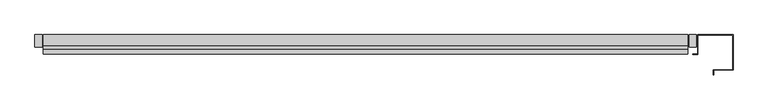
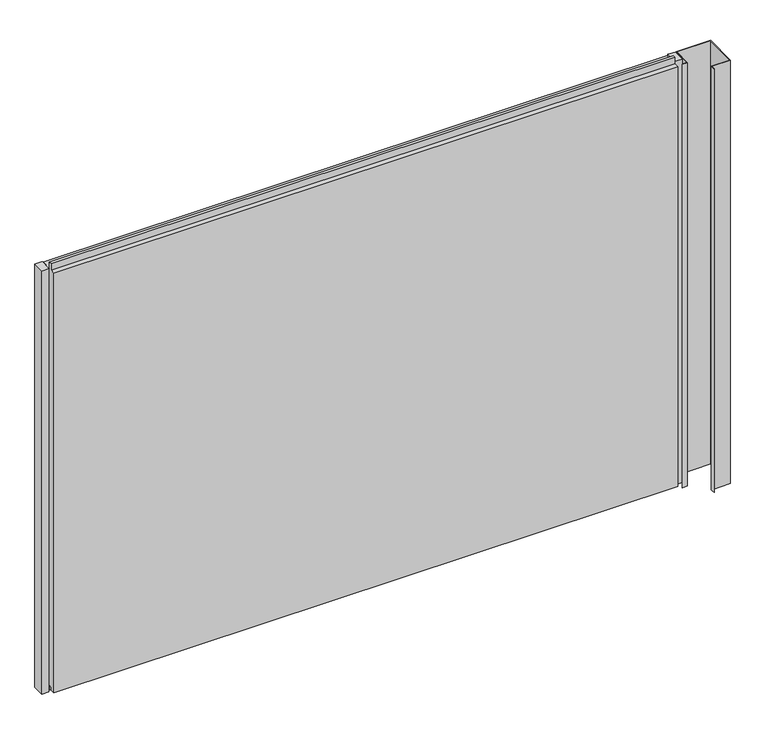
"""IFC4 building model written with IfcOpenShell, lengths in millimetres: plate geometry, Trimo_Qbiss Screen_Normal Panel-HORIZONTAL : HR - FB-F."""

from ifc_helpers import new_model, si_unit, frame, origin, place, context, project, spatial, polyline, outline, extrude, source, transform, mapped, element, save


def plate_e7e33969(model_context):
    return source(origin(), model_context, "Body", "SweptSolid", [
        extrude(outline(polyline([(-840.5, 67.8978162), (-859.5, 67.8978162), (-859.5, 100.0), (-840.5, 100.0), (-840.5, 67.8978162)])), frame((0.0, 0.0, -1.0), z_axis=(0.0, 0.0, 1.0), x_axis=(1.0, 0.0, 0.0)), (0.0, 0.0, 1.0), 1200.0),
        extrude(outline(polyline([(855.0, 67.8978162), (836.0, 67.8978162), (836.0, 100.0), (855.0, 100.0), (855.0, 67.8978162)])), frame((0.0, 0.0, -1.0), z_axis=(0.0, 0.0, 1.0), x_axis=(1.0, 0.0, 0.0)), (0.0, 0.0, 1.0), 1200.0),
        extrude(outline(polyline([(71.0, 1196.0), (100.0, 1196.0), (100.0, 0.0), (72.0, 0.0), (72.0, 15.5), (62.0, 15.5), (62.0, 7.0), (50.0, 7.0), (50.0, 1196.0), (63.0, 1196.0), (63.0, 1214.5), (71.0, 1214.5), (71.0, 1196.0)])), frame((-837.5, 0.0, 0.0), z_axis=(1.0, 0.0, 0.0), x_axis=(0.0, 1.0, 0.0)), (0.0, 0.0, 1.0), 1670.5),
        extrude(outline(polyline([(858.0, 50.0), (858.0, 100.0), (950.0, 100.0), (950.0, 8.0), (900.0, 8.0), (900.0, -4.5), (899.2, -4.5), (899.2, 8.8), (949.2, 8.8), (949.2, 99.2), (858.8, 99.2), (858.8, 49.1823429), (845.5, 49.1823429), (845.5, 50.0), (858.0, 50.0)])), frame((0.0, 0.0, -1.0), z_axis=(0.0, 0.0, 1.0), x_axis=(1.0, 0.0, 0.0)), (0.0, 0.0, 1.0), 1200.0),
    ])


if __name__ == "__main__":
    model = new_model("IFC4")
    model_context = context("Model", 3, world=origin())
    ifc_project = project(units=[si_unit("LENGTHUNIT", "METRE", prefix="MILLI")], contexts=[model_context])
    site = spatial("IfcSite", under=ifc_project)
    building = spatial("IfcBuilding", under=site)
    placement = place(None, origin())
    plate_shape = plate_e7e33969(model_context)
    element("IfcPlate", 1, ObjectType="Trimo_Qbiss Screen_Normal Panel-HORIZONTAL : HR - FB-F", at=placement, inside=building, context=model_context, shape_type="MappedRepresentation", body=[
        mapped(plate_shape, transform((0.0, 0.0, 0.0), x_axis=(1.0, 0.0, 0.0), y_axis=(0.0, 1.0, 0.0), z_axis=(0.0, 0.0, 1.0))),
    ])
    save(model, "model.ifc")
